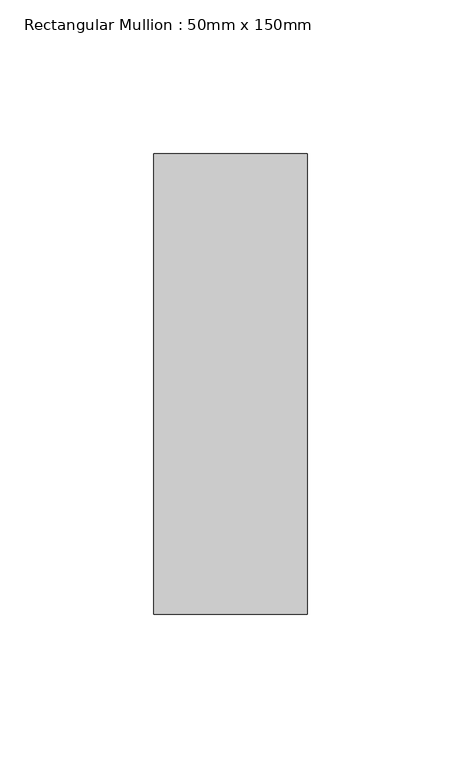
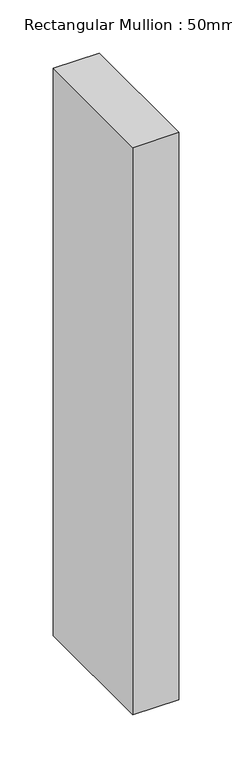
"""IFC4 building model written with IfcOpenShell, lengths in millimetres: member geometry, Rectangular Mullion : 50mm x 150mm."""

from ifc_helpers import new_model, si_unit, frame, origin, place, context, project, spatial, polyline, outline, extrude, source, transform, mapped, element, save


def rectangular_mullion_50mm_x_150mm_32254d86(model_context):
    return source(origin(), model_context, "Body", "SweptSolid", [
        extrude(outline(polyline([(0.0, 75.0), (0.0, -75.0), (-50.0, -75.0), (-50.0, 75.0), (0.0, 75.0)])), frame((0.0, 0.0, -651.9934774), z_axis=(0.0, 0.0, 1.0), x_axis=(1.0, 0.0, 0.0)), (0.0, 0.0, 1.0), 651.9934774),
    ])


if __name__ == "__main__":
    model = new_model("IFC4")
    model_context = context("Model", 3, world=origin())
    ifc_project = project(units=[si_unit("LENGTHUNIT", "METRE", prefix="MILLI")], contexts=[model_context])
    site = spatial("IfcSite", under=ifc_project)
    building = spatial("IfcBuilding", under=site)
    placement = place(None, origin())
    rectangular_mullion_50mm_x_150mm_shape = rectangular_mullion_50mm_x_150mm_32254d86(model_context)
    element("IfcMember", 1, ObjectType="Rectangular Mullion : 50mm x 150mm", at=placement, inside=building, context=model_context, shape_type="MappedRepresentation", body=[
        mapped(rectangular_mullion_50mm_x_150mm_shape, transform((0.0, 0.0, 0.0), x_axis=(1.0, 0.0, 0.0), y_axis=(0.0, 1.0, 0.0), z_axis=(0.0, 0.0, 1.0))),
    ])
    save(model, "model.ifc")
